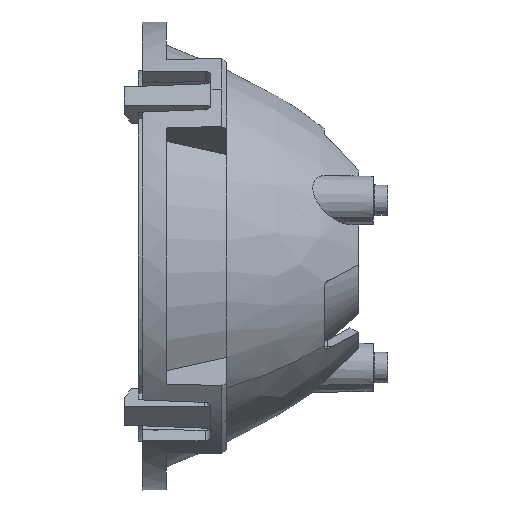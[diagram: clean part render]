
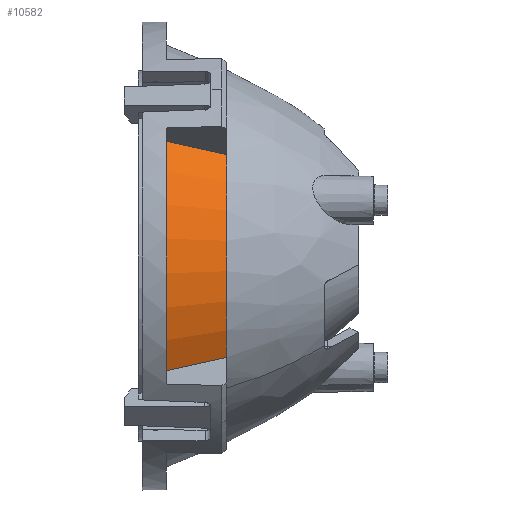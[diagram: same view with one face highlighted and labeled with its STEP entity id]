
A CAD part, left-side view. The second image highlights one B-rep face of the part: STEP entity #10582.
In plain terms, the highlighted conical face has half-angle 22.414 degrees and reference radius 17.605 mm.
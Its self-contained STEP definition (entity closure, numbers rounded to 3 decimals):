
#179 = CARTESIAN_POINT ( 'NONE',  ( 0., -1., 0. ) ) ;
#467 = ORIENTED_EDGE ( 'NONE', *, *, #4914, .F. ) ;
#602 = ORIENTED_EDGE ( 'NONE', *, *, #10667, .T. ) ;
#671 = AXIS2_PLACEMENT_3D ( 'NONE', #8722, #7114, #5414 ) ;
#980 = DIRECTION ( 'NONE',  ( 0.082, 0.924, 0.372 ) ) ;
#1028 = DIRECTION ( 'NONE',  ( -1., 0., 0. ) ) ;
#1053 = DIRECTION ( 'NONE',  ( 0., -1., 0. ) ) ;
#1273 = AXIS2_PLACEMENT_3D ( 'NONE', #179, #6096, #1028 ) ;
#2203 = AXIS2_PLACEMENT_3D ( 'NONE', #6127, #1053, #7005 ) ;
#2375 = CARTESIAN_POINT ( 'NONE',  ( 15.196, -6., 3.264 ) ) ;
#2432 = CARTESIAN_POINT ( 'NONE',  ( 15.196, -6., 3.264 ) ) ;
#2714 = EDGE_CURVE ( 'NONE', #8450, #7106, #3982, .T. ) ;
#3241 = CARTESIAN_POINT ( 'NONE',  ( 15.867, -4.333, 3.412 ) ) ;
#3662 = CARTESIAN_POINT ( 'NONE',  ( 17.21, -1., 3.707 ) ) ;
#3982 = LINE ( 'NONE', #6919, #8095 ) ;
#4084 = CARTESIAN_POINT ( 'NONE',  ( 17.21, -1., 3.707 ) ) ;
#4309 = EDGE_LOOP ( 'NONE', ( #467, #602, #7676, #7447 ) ) ;
#4914 = EDGE_CURVE ( 'NONE', #5193, #8450, #7970, .T. ) ;
#5193 = VERTEX_POINT ( 'NONE', #2432 ) ;
#5414 = DIRECTION ( 'NONE',  ( -1., 0., 0. ) ) ;
#5863 = B_SPLINE_CURVE_WITH_KNOTS ( 'NONE', 3,
 ( #2375, #3241, #9219, #4084 ),
 .UNSPECIFIED., .F., .F.,
 ( 4, 4 ),
 ( 0., 0.005 ),
 .UNSPECIFIED. ) ;
#6096 = DIRECTION ( 'NONE',  ( 0., -1., 0. ) ) ;
#6102 = CONICAL_SURFACE ( 'NONE', #671, 17.605, 0.391 ) ;
#6127 = CARTESIAN_POINT ( 'NONE',  ( 0., -6., 0. ) ) ;
#6320 = CARTESIAN_POINT ( 'NONE',  ( 3.264, -6., 15.196 ) ) ;
#6919 = CARTESIAN_POINT ( 'NONE',  ( 3.264, -6., 15.196 ) ) ;
#7005 = DIRECTION ( 'NONE',  ( 0., 0., 1. ) ) ;
#7106 = VERTEX_POINT ( 'NONE', #8244 ) ;
#7114 = DIRECTION ( 'NONE',  ( 0., 1., 0. ) ) ;
#7447 = ORIENTED_EDGE ( 'NONE', *, *, #2714, .F. ) ;
#7676 = ORIENTED_EDGE ( 'NONE', *, *, #8274, .T. ) ;
#7889 = VERTEX_POINT ( 'NONE', #3662 ) ;
#7970 = CIRCLE ( 'NONE', #2203, 15.542 ) ;
#8005 = CIRCLE ( 'NONE', #1273, 17.605 ) ;
#8095 = VECTOR ( 'NONE', #980, 1000. ) ;
#8244 = CARTESIAN_POINT ( 'NONE',  ( 3.707, -1., 17.21 ) ) ;
#8274 = EDGE_CURVE ( 'NONE', #7889, #7106, #8005, .T. ) ;
#8450 = VERTEX_POINT ( 'NONE', #6320 ) ;
#8722 = CARTESIAN_POINT ( 'NONE',  ( 0., -1., 0. ) ) ;
#9219 = CARTESIAN_POINT ( 'NONE',  ( 16.538, -2.667, 3.559 ) ) ;
#9755 = FACE_OUTER_BOUND ( 'NONE', #4309, .T. ) ;
#10582 = ADVANCED_FACE ( 'NONE', ( #9755 ), #6102, .T. ) ;
#10667 = EDGE_CURVE ( 'NONE', #5193, #7889, #5863, .T. ) ;
